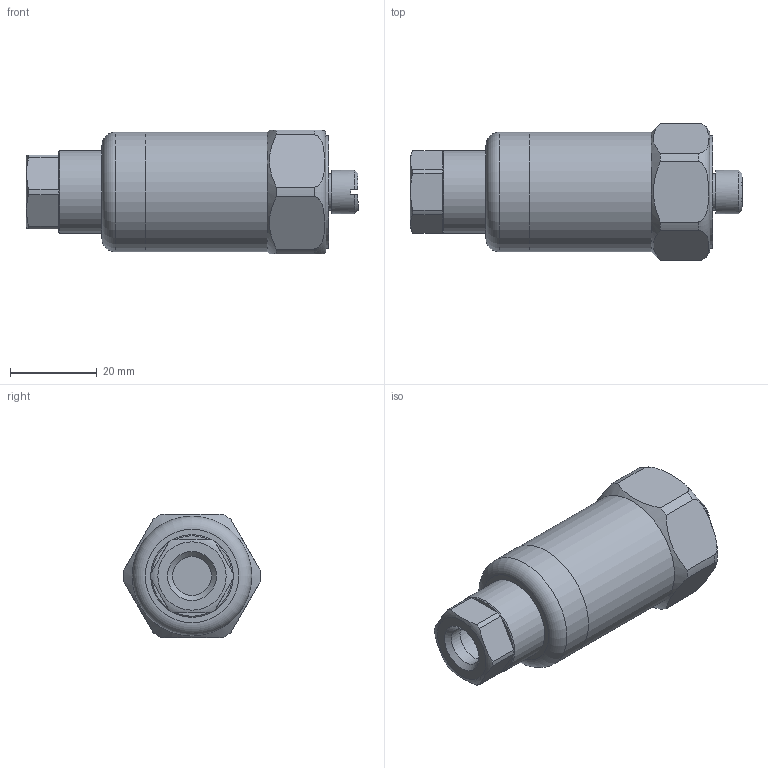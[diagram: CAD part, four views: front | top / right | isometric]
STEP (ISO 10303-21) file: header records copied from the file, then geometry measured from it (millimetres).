
FILE_DESCRIPTION(/* description */ (''),/* implementation_level */ '2;1');
FILE_NAME(/* name */ 'Z:\Engineering\Drawings\3D Library\Assemblies\Website\420 Velocity\HS-420XXX0110.stp',/* time_stamp */ '2023-05-03T13:42:48+01:00',/* author */ ('Ricardo.Peneda'),/* organization */ (''),/* preprocessor_version */ 'ST-DEVELOPER v18.1',/* originating_system */ 'Autodesk Inventor 2021',/* authorisation */ '');
FILE_SCHEMA (('AUTOMOTIVE_DESIGN { 1 0 10303 214 3 1 1 }'));
Length unit declared in the file: inch
Products named in the file (1): HS-420XXX0110_Shrinkwrap_1
Bounding box: 76.38 x 31.69 x 28.5 mm (x, y, z)
Volume: 17763.9 mm3; surface area: 13423.7 mm2
Topology: 4 solids, 4 shells, 90 faces, 240 edges, 173 vertices
Faces by surface type: plane 43, cylinder 34, cone 10, torus 3
Full cylindrical faces by diameter (mm): 5 x1, 6.3 x1, 6.35 x1, 7 x1, 7.5 x1, 8.5 x1, 9 x1, 10 x1, 11.647 x1, 12 x1, 13.882 x1, 14 x1, 15 x2, 18 x1, 19 x1, 20 x1, 25.3 x2, 26 x1, 27.5 x2
Entity records: 3193 total; most frequent: CARTESIAN_POINT 696, DIRECTION 532, ORIENTED_EDGE 480, EDGE_CURVE 240, AXIS2_PLACEMENT_3D 229, VERTEX_POINT 173, CIRCLE 138, EDGE_LOOP 109
